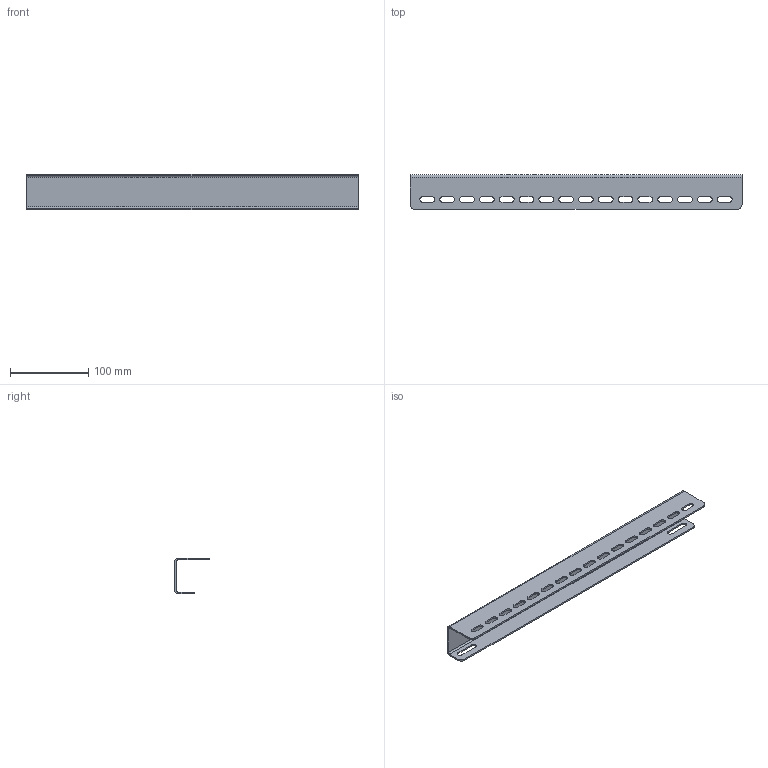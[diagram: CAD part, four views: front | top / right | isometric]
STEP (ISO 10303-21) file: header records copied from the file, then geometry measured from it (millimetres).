
FILE_DESCRIPTION((''),'2;1');
FILE_NAME('IMS-SUBPANEL-MOUNTING-STRAP','2011-12-05T',('dougp'),(''),'PRO/ENGINEER BY PARAMETRIC TECHNOLOGY CORPORATION, 2009230','PRO/ENGINEER BY PARAMETRIC TECHNOLOGY CORPORATION, 2009230','');
FILE_SCHEMA(('AUTOMOTIVE_DESIGN { 1 0 10303 214 1 1 1 1 }'));
Length unit declared in the file: inch
Products named in the file (1): IMS-SUBPANEL-MOUNTING-STRAP
Bounding box: 425.45 x 44.45 x 45.21 mm (x, y, z)
Volume: 86572.3 mm3; surface area: 91237.9 mm2
Topology: 1 solids, 1 shells, 98 faces, 308 edges, 248 vertices
Faces by surface type: plane 54, cylinder 44
Entity records: 3549 total; most frequent: DIRECTION 594, CARTESIAN_POINT 584, ORIENTED_EDGE 544, EDGE_CURVE 272, VECTOR 220, LINE 220, AXIS2_PLACEMENT_3D 187, VERTEX_POINT 176
